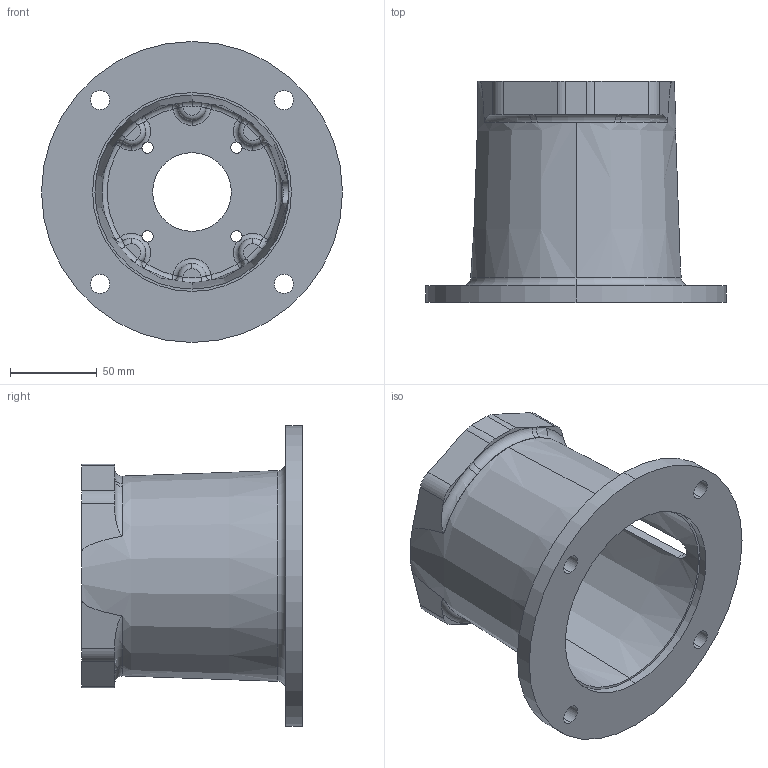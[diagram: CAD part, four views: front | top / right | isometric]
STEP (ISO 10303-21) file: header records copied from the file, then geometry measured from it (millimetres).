
FILE_DESCRIPTION (( 'STEP AP203' ), '1' );
FILE_NAME ('M056504F.STEP', '2008-05-16T19:24:55', ( 'Chris McCoy' ), ( 'Magnaloy Coupling Co' ), 'SwSTEP 2.0', 'SolidWorks 2008', '' );
FILE_SCHEMA (( 'CONFIG_CONTROL_DESIGN' ));
Length unit declared in the file: inch
Products named in the file (1): M056504F
Bounding box: 172.97 x 127 x 172.97 mm (x, y, z)
Volume: 417108.3 mm3; surface area: 133363.2 mm2
Topology: 1 solids, 1 shells, 179 faces, 462 edges, 272 vertices
Faces by surface type: torus 56, cylinder 32, plane 29, bspline 28, sphere 24, cone 10
Entity records: 7171 total; most frequent: CARTESIAN_POINT 2786, DIRECTION 978, ORIENTED_EDGE 900, AXIS2_PLACEMENT_3D 452, EDGE_CURVE 450, CIRCLE 300, VERTEX_POINT 272, EDGE_LOOP 198
